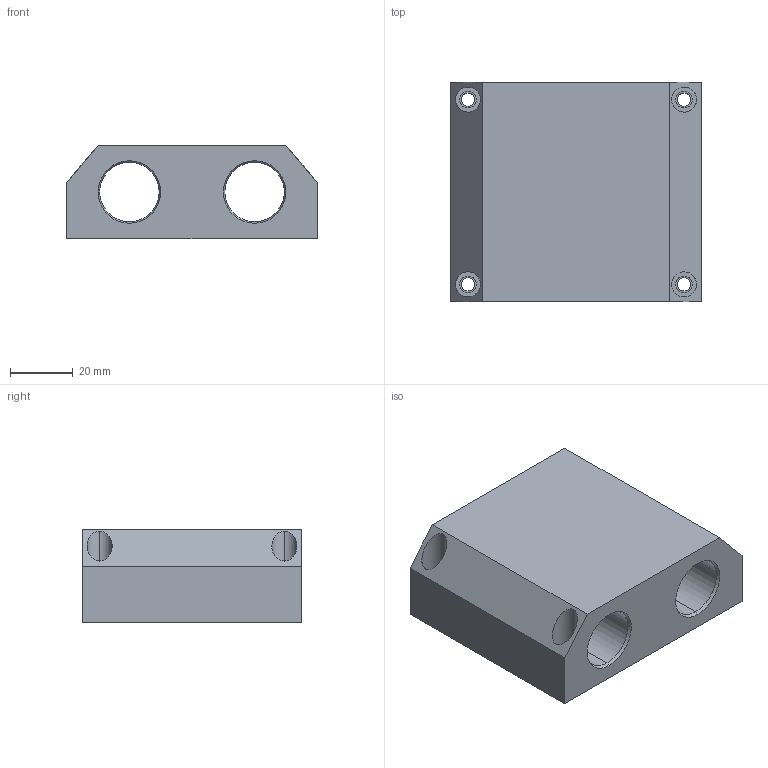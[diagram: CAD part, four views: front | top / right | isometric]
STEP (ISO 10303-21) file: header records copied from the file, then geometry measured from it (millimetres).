
FILE_DESCRIPTION (( 'STEP AP214' ), '1' );
FILE_NAME ('KQSGC-12.step', '2020-03-04T13:10:24', ( '' ), ( '' ), 'SwSTEP 2.0', 'SolidWorks 2019', '' );
FILE_SCHEMA (( 'AUTOMOTIVE_DESIGN' ));
Length unit declared in the file: millimetre
Products named in the file (1): KQSGC-12
Bounding box: 80 x 70 x 30 mm (x, y, z)
Volume: 116778.4 mm3; surface area: 27838.3 mm2
Topology: 1 solids, 1 shells, 58 faces, 132 edges, 83 vertices
Faces by surface type: cylinder 30, plane 16, cone 12
Entity records: 1774 total; most frequent: DIRECTION 302, CARTESIAN_POINT 296, ORIENTED_EDGE 260, EDGE_CURVE 130, AXIS2_PLACEMENT_3D 121, VERTEX_POINT 83, EDGE_LOOP 79, CIRCLE 62
